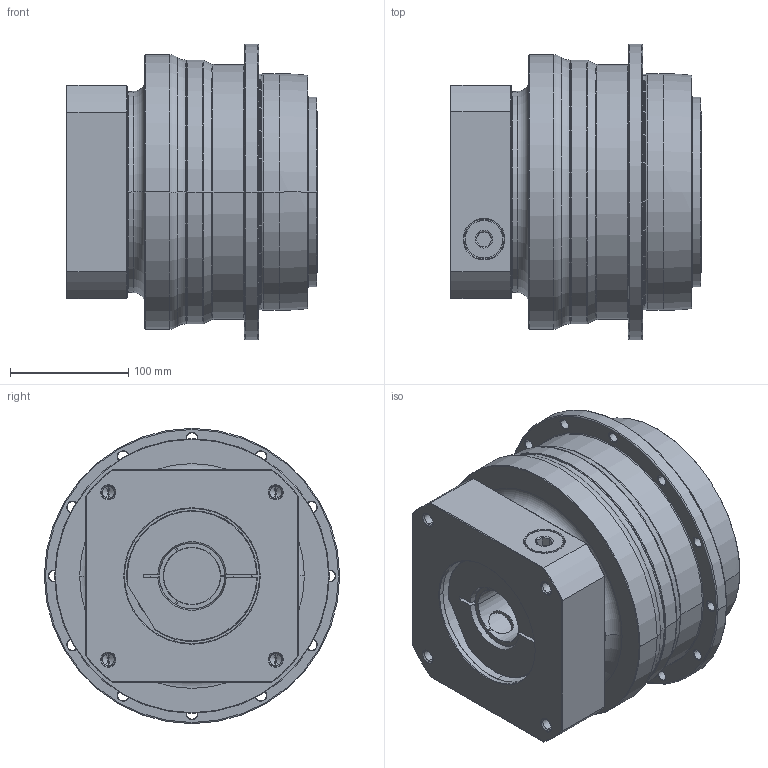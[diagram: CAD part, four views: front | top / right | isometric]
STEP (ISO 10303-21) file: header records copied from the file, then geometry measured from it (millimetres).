
FILE_DESCRIPTION((''),'2;1');
FILE_NAME('AH200_1ST_48-P0409B00101_ASM','2016-09-30T',('d00435'),(''),'PRO/ENGINEER BY PARAMETRIC TECHNOLOGY CORPORATION, 2008410','PRO/ENGINEER BY PARAMETRIC TECHNOLOGY CORPORATION, 2008410','');
FILE_SCHEMA(('CONFIG_CONTROL_DESIGN'));
Length unit declared in the file: millimetre
Products named in the file (8): P0278600003; P0359600003; P1318600401; P0409B00101; P0503B00016; P0912604201; 21711426021; AH200_1ST_48-P0409B00101_ASM
Assembly tree (7 placements, depth 2):
  AH200_1ST_48-P0409B00101_ASM
    P0278600003
    P0359600003
    P1318600401
    P0409B00101
    P0503B00016
    P0912604201
    21711426021
Bounding box: 212.5 x 249.5 x 249.5 mm (x, y, z)
Volume: 6775159.6 mm3; surface area: 614563.9 mm2
Topology: 8 solids, 32 shells, 619 faces, 1471 edges, 895 vertices
Faces by surface type: cylinder 256, cone 170, plane 117, torus 62, bspline 14
Entity records: 22686 total; most frequent: CARTESIAN_POINT 7991, DIRECTION 3359, ORIENTED_EDGE 2754, AXIS2_PLACEMENT_3D 1431, EDGE_CURVE 1425, VERTEX_POINT 895, CIRCLE 801, EDGE_LOOP 730
